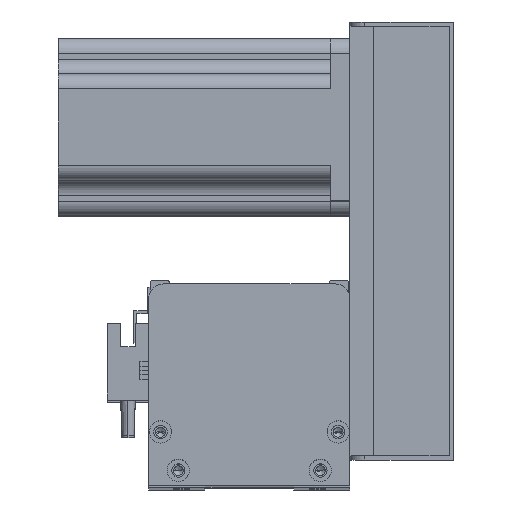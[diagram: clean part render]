
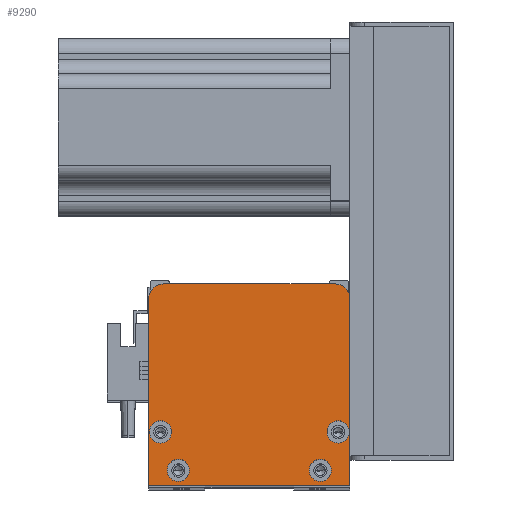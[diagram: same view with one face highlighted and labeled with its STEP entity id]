
A CAD part, top view. The second image highlights one B-rep face of the part: STEP entity #9290.
In plain terms, the highlighted planar face has unit normal (0, 0, 1).
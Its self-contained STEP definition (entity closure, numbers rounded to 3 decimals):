
#228 = AXIS2_PLACEMENT_3D ( 'NONE', #16491, #20962, #1522 ) ;
#1228 = AXIS2_PLACEMENT_3D ( 'NONE', #8702, #17231, #21334 ) ;
#1500 = ORIENTED_EDGE ( 'NONE', *, *, #8221, .T. ) ;
#1522 = DIRECTION ( 'NONE',  ( 1., 0., 0. ) ) ;
#1935 = VECTOR ( 'NONE', #6798, 1000. ) ;
#2089 = ORIENTED_EDGE ( 'NONE', *, *, #7712, .F. ) ;
#2126 = EDGE_CURVE ( 'NONE', #3111, #4494, #9269, .T. ) ;
#2338 = LINE ( 'NONE', #21015, #24957 ) ;
#2378 = VERTEX_POINT ( 'NONE', #17318 ) ;
#3099 = DIRECTION ( 'NONE',  ( 0., 0., 1. ) ) ;
#3111 = VERTEX_POINT ( 'NONE', #22230 ) ;
#3488 = EDGE_LOOP ( 'NONE', ( #4842, #11016 ) ) ;
#3668 = AXIS2_PLACEMENT_3D ( 'NONE', #11581, #16155, #5257 ) ;
#3701 = PLANE ( 'NONE',  #228 ) ;
#3877 = ORIENTED_EDGE ( 'NONE', *, *, #23794, .T. ) ;
#4422 = CARTESIAN_POINT ( 'NONE',  ( 4., 18., 64. ) ) ;
#4494 = VERTEX_POINT ( 'NONE', #21402 ) ;
#4842 = ORIENTED_EDGE ( 'NONE', *, *, #14288, .F. ) ;
#5009 = CIRCLE ( 'NONE', #16063, 3.75 ) ;
#5213 = CIRCLE ( 'NONE', #24385, 3.75 ) ;
#5257 = DIRECTION ( 'NONE',  ( 1., 0., 0. ) ) ;
#5389 = CARTESIAN_POINT ( 'NONE',  ( 7.75, 18., 64. ) ) ;
#5691 = DIRECTION ( 'NONE',  ( 1., 0., 0. ) ) ;
#5834 = VERTEX_POINT ( 'NONE', #23627 ) ;
#6073 = DIRECTION ( 'NONE',  ( 0., 0., 1. ) ) ;
#6441 = CARTESIAN_POINT ( 'NONE',  ( 0., 63., 64. ) ) ;
#6456 = EDGE_LOOP ( 'NONE', ( #6937, #1500, #9402, #24946, #24811, #3877 ) ) ;
#6798 = DIRECTION ( 'NONE',  ( 0., 1., 0. ) ) ;
#6937 = ORIENTED_EDGE ( 'NONE', *, *, #26683, .T. ) ;
#7253 = VERTEX_POINT ( 'NONE', #7462 ) ;
#7265 = DIRECTION ( 'NONE',  ( 1., 0., 0. ) ) ;
#7275 = DIRECTION ( 'NONE',  ( 1., 0., 0. ) ) ;
#7462 = CARTESIAN_POINT ( 'NONE',  ( 54.25, 5., 64. ) ) ;
#7587 = CARTESIAN_POINT ( 'NONE',  ( 64., 18., 64. ) ) ;
#7712 = EDGE_CURVE ( 'NONE', #4494, #3111, #5009, .T. ) ;
#7938 = CIRCLE ( 'NONE', #12572, 3.75 ) ;
#8221 = EDGE_CURVE ( 'NONE', #2378, #22699, #16198, .T. ) ;
#8635 = EDGE_CURVE ( 'NONE', #10586, #18024, #23905, .T. ) ;
#8702 = CARTESIAN_POINT ( 'NONE',  ( 58., 5., 64. ) ) ;
#8752 = VERTEX_POINT ( 'NONE', #11991 ) ;
#8899 = VERTEX_POINT ( 'NONE', #10634 ) ;
#9269 = CIRCLE ( 'NONE', #18770, 3.75 ) ;
#9274 = CARTESIAN_POINT ( 'NONE',  ( 68., 68., 64. ) ) ;
#9290 = ADVANCED_FACE ( 'NONE', ( #17539, #15513, #24913, #18545, #25943 ), #3701, .T. ) ;
#9402 = ORIENTED_EDGE ( 'NONE', *, *, #27705, .T. ) ;
#9462 = CARTESIAN_POINT ( 'NONE',  ( 68., 0., 64. ) ) ;
#9501 = EDGE_CURVE ( 'NONE', #18393, #9640, #26576, .T. ) ;
#9514 = EDGE_LOOP ( 'NONE', ( #2089, #18150 ) ) ;
#9640 = VERTEX_POINT ( 'NONE', #5389 ) ;
#9686 = ORIENTED_EDGE ( 'NONE', *, *, #9501, .F. ) ;
#9841 = CARTESIAN_POINT ( 'NONE',  ( 6.25, 5., 64. ) ) ;
#10281 = DIRECTION ( 'NONE',  ( 0., -1., 0. ) ) ;
#10586 = VERTEX_POINT ( 'NONE', #9841 ) ;
#10634 = CARTESIAN_POINT ( 'NONE',  ( 63., 68., 64. ) ) ;
#10659 = VERTEX_POINT ( 'NONE', #9462 ) ;
#10710 = DIRECTION ( 'NONE',  ( 1., 0., 0. ) ) ;
#11016 = ORIENTED_EDGE ( 'NONE', *, *, #26440, .F. ) ;
#11578 = EDGE_CURVE ( 'NONE', #10659, #22054, #15495, .T. ) ;
#11581 = CARTESIAN_POINT ( 'NONE',  ( 10., 5., 64. ) ) ;
#11683 = DIRECTION ( 'NONE',  ( 0., 0., 1. ) ) ;
#11702 = CIRCLE ( 'NONE', #1228, 3.75 ) ;
#11805 = DIRECTION ( 'NONE',  ( 0., 0., 1. ) ) ;
#11991 = CARTESIAN_POINT ( 'NONE',  ( 0., 0., 64. ) ) ;
#12572 = AXIS2_PLACEMENT_3D ( 'NONE', #25030, #6073, #5691 ) ;
#12761 = LINE ( 'NONE', #9274, #18153 ) ;
#13215 = CARTESIAN_POINT ( 'NONE',  ( 68., 0., 64. ) ) ;
#14032 = AXIS2_PLACEMENT_3D ( 'NONE', #26385, #11683, #7265 ) ;
#14288 = EDGE_CURVE ( 'NONE', #5834, #7253, #11702, .T. ) ;
#14419 = CIRCLE ( 'NONE', #15457, 5. ) ;
#14905 = EDGE_LOOP ( 'NONE', ( #20018, #23257 ) ) ;
#15423 = DIRECTION ( 'NONE',  ( 0., 0., 1. ) ) ;
#15457 = AXIS2_PLACEMENT_3D ( 'NONE', #27007, #3099, #7275 ) ;
#15495 = LINE ( 'NONE', #13215, #1935 ) ;
#15511 = CIRCLE ( 'NONE', #14032, 3.75 ) ;
#15513 = FACE_BOUND ( 'NONE', #27195, .T. ) ;
#16063 = AXIS2_PLACEMENT_3D ( 'NONE', #24723, #11805, #16187 ) ;
#16155 = DIRECTION ( 'NONE',  ( 0., 0., 1. ) ) ;
#16187 = DIRECTION ( 'NONE',  ( 1., 0., 0. ) ) ;
#16198 = CIRCLE ( 'NONE', #27236, 5. ) ;
#16326 = DIRECTION ( 'NONE',  ( 1., 0., 0. ) ) ;
#16491 = CARTESIAN_POINT ( 'NONE',  ( 0., 0., 64. ) ) ;
#16606 = CARTESIAN_POINT ( 'NONE',  ( 68., 63., 64. ) ) ;
#16867 = CARTESIAN_POINT ( 'NONE',  ( 10., 5., 64. ) ) ;
#17231 = DIRECTION ( 'NONE',  ( 0., 0., 1. ) ) ;
#17318 = CARTESIAN_POINT ( 'NONE',  ( 5., 68., 64. ) ) ;
#17499 = CARTESIAN_POINT ( 'NONE',  ( 13.75, 5., 64. ) ) ;
#17539 = FACE_BOUND ( 'NONE', #9514, .T. ) ;
#17765 = DIRECTION ( 'NONE',  ( 1., 0., 0. ) ) ;
#18024 = VERTEX_POINT ( 'NONE', #17499 ) ;
#18150 = ORIENTED_EDGE ( 'NONE', *, *, #2126, .F. ) ;
#18153 = VECTOR ( 'NONE', #26538, 1000. ) ;
#18393 = VERTEX_POINT ( 'NONE', #21446 ) ;
#18545 = FACE_BOUND ( 'NONE', #3488, .T. ) ;
#18554 = AXIS2_PLACEMENT_3D ( 'NONE', #4422, #15423, #17765 ) ;
#18656 = DIRECTION ( 'NONE',  ( 1., 0., 0. ) ) ;
#18687 = DIRECTION ( 'NONE',  ( 0., 0., 1. ) ) ;
#18696 = LINE ( 'NONE', #23620, #22024 ) ;
#18770 = AXIS2_PLACEMENT_3D ( 'NONE', #7587, #27096, #18656 ) ;
#18936 = DIRECTION ( 'NONE',  ( 1., 0., 0. ) ) ;
#20018 = ORIENTED_EDGE ( 'NONE', *, *, #22557, .F. ) ;
#20640 = EDGE_CURVE ( 'NONE', #8752, #10659, #18696, .T. ) ;
#20725 = ORIENTED_EDGE ( 'NONE', *, *, #22589, .F. ) ;
#20962 = DIRECTION ( 'NONE',  ( 0., 0., 1. ) ) ;
#21015 = CARTESIAN_POINT ( 'NONE',  ( 0., 0., 64. ) ) ;
#21334 = DIRECTION ( 'NONE',  ( 1., 0., 0. ) ) ;
#21402 = CARTESIAN_POINT ( 'NONE',  ( 67.75, 18., 64. ) ) ;
#21446 = CARTESIAN_POINT ( 'NONE',  ( 0.25, 18., 64. ) ) ;
#22024 = VECTOR ( 'NONE', #10710, 1000. ) ;
#22054 = VERTEX_POINT ( 'NONE', #16606 ) ;
#22230 = CARTESIAN_POINT ( 'NONE',  ( 60.25, 18., 64. ) ) ;
#22557 = EDGE_CURVE ( 'NONE', #18024, #10586, #5213, .T. ) ;
#22589 = EDGE_CURVE ( 'NONE', #9640, #18393, #7938, .T. ) ;
#22699 = VERTEX_POINT ( 'NONE', #6441 ) ;
#23257 = ORIENTED_EDGE ( 'NONE', *, *, #8635, .F. ) ;
#23620 = CARTESIAN_POINT ( 'NONE',  ( 68., 0., 64. ) ) ;
#23627 = CARTESIAN_POINT ( 'NONE',  ( 61.75, 5., 64. ) ) ;
#23794 = EDGE_CURVE ( 'NONE', #22054, #8899, #14419, .T. ) ;
#23905 = CIRCLE ( 'NONE', #3668, 3.75 ) ;
#24385 = AXIS2_PLACEMENT_3D ( 'NONE', #16867, #25315, #18936 ) ;
#24723 = CARTESIAN_POINT ( 'NONE',  ( 64., 18., 64. ) ) ;
#24811 = ORIENTED_EDGE ( 'NONE', *, *, #11578, .T. ) ;
#24913 = FACE_BOUND ( 'NONE', #14905, .T. ) ;
#24946 = ORIENTED_EDGE ( 'NONE', *, *, #20640, .T. ) ;
#24957 = VECTOR ( 'NONE', #10281, 1000. ) ;
#24976 = CARTESIAN_POINT ( 'NONE',  ( 5., 63., 64. ) ) ;
#25030 = CARTESIAN_POINT ( 'NONE',  ( 4., 18., 64. ) ) ;
#25315 = DIRECTION ( 'NONE',  ( 0., 0., 1. ) ) ;
#25943 = FACE_OUTER_BOUND ( 'NONE', #6456, .T. ) ;
#26385 = CARTESIAN_POINT ( 'NONE',  ( 58., 5., 64. ) ) ;
#26440 = EDGE_CURVE ( 'NONE', #7253, #5834, #15511, .T. ) ;
#26538 = DIRECTION ( 'NONE',  ( -1., 0., 0. ) ) ;
#26576 = CIRCLE ( 'NONE', #18554, 3.75 ) ;
#26683 = EDGE_CURVE ( 'NONE', #8899, #2378, #12761, .T. ) ;
#27007 = CARTESIAN_POINT ( 'NONE',  ( 63., 63., 64. ) ) ;
#27096 = DIRECTION ( 'NONE',  ( 0., 0., 1. ) ) ;
#27195 = EDGE_LOOP ( 'NONE', ( #20725, #9686 ) ) ;
#27236 = AXIS2_PLACEMENT_3D ( 'NONE', #24976, #18687, #16326 ) ;
#27705 = EDGE_CURVE ( 'NONE', #22699, #8752, #2338, .T. ) ;
